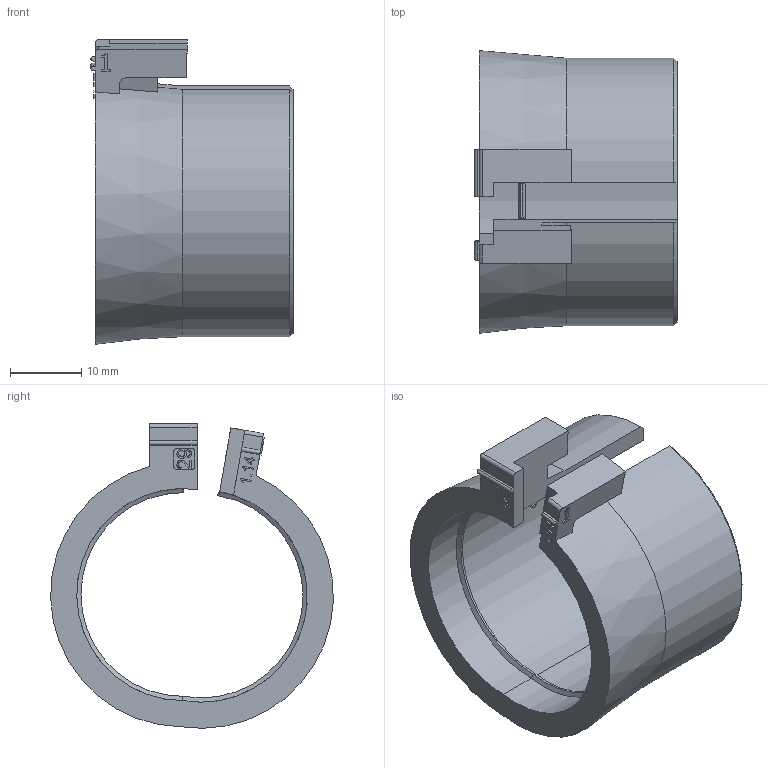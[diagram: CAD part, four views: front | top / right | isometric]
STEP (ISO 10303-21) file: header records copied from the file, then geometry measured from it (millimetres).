
FILE_DESCRIPTION(/* description */ (''),/* implementation_level */ '2;1');
FILE_NAME(/* name */ 'C:\SapWorkDir\Inventor\MP1\ConvertTempPath\87_12_121378_00_A_220530_KDT-X 29.stp',/* time_stamp */ '2022-05-31T15:39:51+02:00',/* author */ ('BAUER'),/* organization */ (''),/* preprocessor_version */ 'ST-DEVELOPER v16.13',/* originating_system */ 'Autodesk Inventor 2018',/* authorisation */ '');
FILE_SCHEMA (('AUTOMOTIVE_DESIGN { 1 0 10303 214 3 1 1 }'));
Length unit declared in the file: millimetre
Products named in the file (1): 121378
Bounding box: 28.4 x 39.7 x 42.8 mm (x, y, z)
Volume: 8693.4 mm3; surface area: 7082.5 mm2
Topology: 1 solids, 1 shells, 160 faces, 426 edges, 278 vertices
Faces by surface type: plane 103, bspline 25, cylinder 24, cone 8
Entity records: 5138 total; most frequent: CARTESIAN_POINT 1197, ORIENTED_EDGE 852, DIRECTION 699, EDGE_CURVE 426, LINE 311, VECTOR 311, VERTEX_POINT 278, AXIS2_PLACEMENT_3D 194
